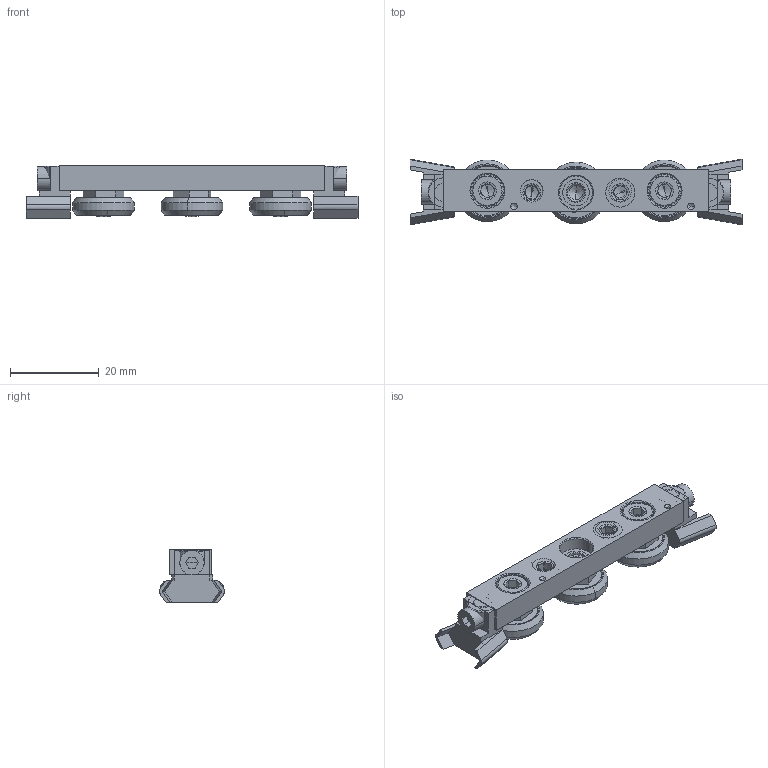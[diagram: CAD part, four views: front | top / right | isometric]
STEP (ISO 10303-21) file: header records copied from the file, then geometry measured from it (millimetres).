
FILE_DESCRIPTION (( 'STEP AP203' ), '1' );
FILE_NAME ('L1918.CSW18-060-2RST.step', '2019-06-29T22:01:24', ( '' ), ( '' ), 'SwSTEP 2.0', 'SolidWorks 2017', '' );
FILE_SCHEMA (( 'CONFIG_CONTROL_DESIGN' ));
Length unit declared in the file: millimetre
Products named in the file (6): Part8; Part5; Part6; Part1_L1918.CSW18-060-2RST; Part4; L1918.CSW18-060-2RST
Assembly tree (15 placements, depth 2):
  L1918.CSW18-060-2RST
    Part1_L1918.CSW18-060-2RST
    Part8  x9
    Part4  x2
    Part5
    Part6  x2
Bounding box: 75 x 14.8 x 11.95 mm (x, y, z)
Volume: 6435.6 mm3; surface area: 6662.6 mm2
Topology: 15 solids, 15 shells, 429 faces, 1004 edges, 613 vertices
Faces by surface type: plane 239, cone 100, cylinder 66, torus 24
Entity records: 6171 total; most frequent: CARTESIAN_POINT 991, DIRECTION 958, ORIENTED_EDGE 832, EDGE_CURVE 416, AXIS2_PLACEMENT_3D 359, VERTEX_POINT 267, VECTOR 240, LINE 240
